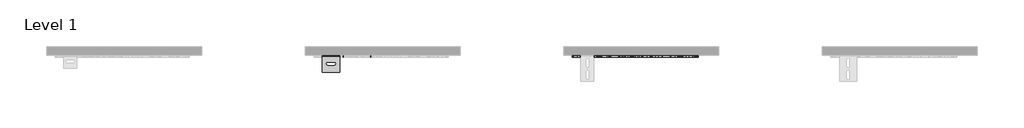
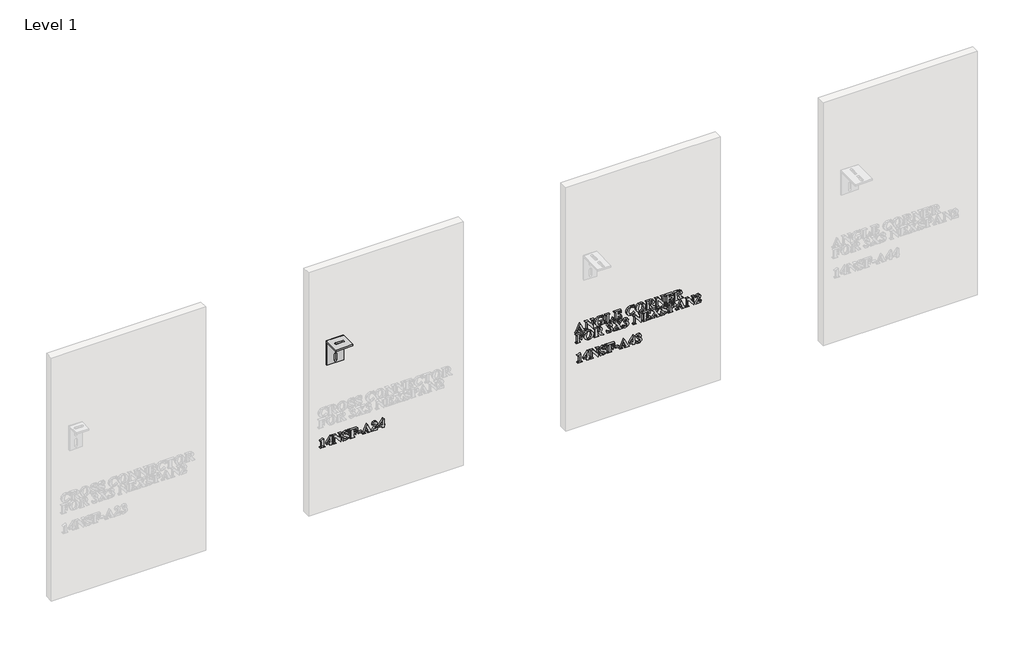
# One storey, part 7 of 21: 4 proxies.
"""IFC4 building model written with IfcOpenShell, lengths in millimetres."""

from ifc_helpers import new_model, si_unit, frame, origin, place, context, project, spatial, polyline, outline, extrude, transform, mapped, element, save
from components import generic_models_1f3758d4

model = new_model("IFC4")

# Units and contexts
model_context = context("Model", 3, world=origin())
ifc_project = project(units=[si_unit("LENGTHUNIT", "METRE", prefix="MILLI")], contexts=[model_context])

# Site, building, storey
site = spatial("IfcSite", under=ifc_project)
building = spatial("IfcBuilding", under=site)
storey = spatial("IfcBuildingStorey", under=building, Name="Level 1", Elevation=0.0)

# Proxies
placement = place(None, origin())
element("IfcBuildingElementProxy", 1, Name="2\"\" Arial", ObjectType="2\"\" Arial", at=placement, inside=storey, context=model_context, shape_type="SweptSolid", body=[
    extrude(outline(polyline([(463.8692305, 6960.4026674), (455.0050049, 6940.6451396), (453.2321598, 6941.3099565), (454.4648412, 6945.8667225), (453.827725, 6947.9442753), (452.3111114, 6949.1769567), (447.9136245, 6949.5093652), (421.3209478, 6949.5093652), (415.2544934, 6948.9899769), (413.2046413, 6947.0024514), (412.4567222, 6940.6451396), (410.6838771, 6940.6451396), (410.6838771, 6969.0106614), (412.4567222, 6967.77798), (413.273893, 6963.3043162), (415.3791466, 6961.4691445), (421.3209478, 6961.0328584), (463.8692305, 6960.4026674)])), frame((0.0, -15490.3579358, 0.0), z_axis=(0.0, 1.0, 0.0), x_axis=(0.0, 0.0, 1.0)), (0.0, 0.0, 1.0), 12.7),
    extrude(outline(polyline([(430.1851733, 6977.874887), (422.2073703, 6977.874887), (422.2073703, 6996.4897607), (410.6838771, 6996.4897607), (410.6838771, 7008.0132539), (422.2073703, 7008.0132539), (422.2073703, 7012.4453667), (430.1851733, 7012.4453667), (430.1851733, 7008.0132539), (463.8692305, 7008.0132539), (463.8692305, 7002.9024738), (430.1851733, 6977.874887)]), holes=[polyline([(430.1851733, 6980.5618553), (451.6116686, 6996.4897607), (430.1851733, 6996.4897607), (430.1851733, 6980.5618553)])]), frame((0.0, -15490.3579358, 0.0), z_axis=(0.0, 1.0, 0.0), x_axis=(0.0, 0.0, 1.0)), (0.0, 0.0, 1.0), 12.7),
    extrude(outline(polyline([(462.9828079, 7035.0768426), (462.9828079, 7016.6558738), (461.2099628, 7016.6558738), (460.6074725, 7020.319292), (457.4565173, 7023.9688599), (419.5481027, 7023.9688599), (414.097989, 7022.4106952), (412.4567222, 7016.8774794), (410.6838771, 7016.8774794), (410.6838771, 7034.6059306), (412.4567222, 7033.5117527), (413.9179344, 7029.3358715), (419.5481027, 7027.5145501), (452.9551528, 7027.5145501), (409.7974546, 7061.3371108), (409.7974546, 7062.9714524), (452.3457373, 7062.9714524), (457.7820006, 7063.6293441), (460.0673087, 7065.4645158), (461.2099628, 7070.0628328), (462.9828079, 7070.0628328), (462.9828079, 7052.3343817), (461.2099628, 7052.3343817), (458.9662057, 7058.1653801), (452.3457373, 7059.4257622), (431.9164674, 7059.4257622), (462.9828079, 7035.0768426)])), frame((0.0, -15490.3579358, 0.0), z_axis=(0.0, 1.0, 0.0), x_axis=(0.0, 0.0, 1.0)), (0.0, 0.0, 1.0), 12.7),
    extrude(outline(polyline([(463.8692305, 7110.8382704), (463.8692305, 7109.0654253), (460.9329558, 7107.9573971), (460.3235403, 7106.3230555), (461.5631468, 7102.5626848), (463.259815, 7098.0128441), (463.8692305, 7092.9297647), (459.5409954, 7080.9976861), (449.0493534, 7076.2677907), (442.4427353, 7077.9021323), (437.0064719, 7082.5835514), (431.0992966, 7093.4283774), (427.0549937, 7101.1845748), (423.7863105, 7104.4463328), (420.2267699, 7105.5197351), (414.7905066, 7102.8535422), (412.4567222, 7095.6859848), (416.771107, 7084.8342337), (429.2987508, 7078.0406358), (429.2987508, 7076.2677907), (409.7974546, 7076.2677907), (409.7974546, 7078.0406358), (412.4705726, 7079.8619572), (413.3431448, 7082.0018366), (412.4844229, 7085.0627645), (410.3583938, 7090.6098307), (409.7974546, 7095.298175), (414.4788737, 7108.3590573), (425.6699585, 7113.4975381), (434.76964, 7110.8798215), (443.218355, 7098.1928986), (447.7058692, 7089.051666), (451.2654098, 7085.1320163), (454.3263377, 7084.2455937), (459.1254848, 7086.6694054), (461.2099628, 7093.2483228), (457.0756326, 7103.2621276), (446.1407794, 7109.0654253), (446.1407794, 7110.8382704), (463.8692305, 7110.8382704)])), frame((0.0, -15490.3579358, 0.0), z_axis=(0.0, 1.0, 0.0), x_axis=(0.0, 0.0, 1.0)), (0.0, 0.0, 1.0), 12.7),
    extrude(outline(polyline([(459.4371177, 7137.4309471), (459.4371177, 7141.8630599), (458.8415526, 7150.4225777), (455.1296581, 7156.8352909), (447.0272019, 7159.591511), (447.0272019, 7161.3643561), (462.9828079, 7161.3643561), (462.9828079, 7117.9296509), (461.2099628, 7117.9296509), (461.2099628, 7119.6055435), (460.5035948, 7122.9573288), (458.8484777, 7124.6124459), (454.1185824, 7125.0210313), (419.5481027, 7125.0210313), (414.963636, 7124.6193711), (413.2184916, 7123.123533), (412.4567222, 7119.6055435), (412.4567222, 7117.9296509), (410.6838771, 7117.9296509), (410.6838771, 7144.5223276), (412.4567222, 7144.5223276), (412.4567222, 7142.8602853), (413.1630902, 7139.5154252), (414.8182073, 7137.8533829), (419.5481027, 7137.4309471), (435.5037087, 7137.4309471), (435.5037087, 7139.2037922), (433.0868222, 7146.1151181), (423.0937929, 7149.8408629), (423.0937929, 7151.613708), (451.4593147, 7151.613708), (451.4593147, 7149.8408629), (444.0770768, 7147.9849157), (440.1989782, 7144.501552), (439.0493989, 7139.2037922), (439.0493989, 7137.4309471), (459.4371177, 7137.4309471)])), frame((0.0, -15490.3579358, 0.0), z_axis=(0.0, 1.0, 0.0), x_axis=(0.0, 0.0, 1.0)), (0.0, 0.0, 1.0), 12.7),
    extrude(outline(polyline([(7187.0706103, -15490.3579358), (7164.9100464, -15490.3579358), (7164.9100464, -15477.6579358), (7187.0706103, -15477.6579358), (7187.0706103, -15490.3579358)])), frame((0.0, 0.0, 424.866638), z_axis=(0.0, 0.0, 1.0), x_axis=(1.0, 0.0, 0.0)), (0.0, 0.0, 1.0), 7.977803),
    extrude(outline(polyline([(425.7530606, 7222.9153224), (419.1048914, 7225.8377468), (414.963636, 7227.222782), (413.273893, 7226.3779105), (412.4567222, 7221.0593752), (410.6838771, 7221.0593752), (410.6838771, 7246.4609215), (412.4567222, 7246.4609215), (413.8140568, 7242.7628774), (421.3070974, 7238.3307647), (463.8692305, 7218.6771145), (422.470527, 7199.8544856), (414.7420304, 7195.3877469), (412.4567222, 7190.7686544), (410.6838771, 7190.7686544), (410.6838771, 7208.5386566), (412.4567222, 7208.5386566), (413.3431448, 7203.4140261), (416.4317734, 7201.641181), (420.4345252, 7202.7215085), (425.7530606, 7205.1314699), (425.7530606, 7222.9153224)]), holes=[polyline([(429.2987508, 7221.3640829), (429.2987508, 7206.7381107), (445.6421667, 7214.1480493), (429.2987508, 7221.3640829)])]), frame((0.0, -15490.3579358, 0.0), z_axis=(0.0, 1.0, 0.0), x_axis=(0.0, 0.0, 1.0)), (0.0, 0.0, 1.0), 12.7),
    extrude(outline(polyline([(410.6838771, 7278.7737938), (425.7530606, 7280.394285), (422.664432, 7278.2959566), (421.6256555, 7276.2599548), (421.3209478, 7270.9067936), (421.3209478, 7259.7434095), (440.8914958, 7276.4607849), (451.1269062, 7279.2585561), (457.0617823, 7277.367983), (462.0479091, 7272.139475), (463.8692305, 7264.7572371), (460.3650913, 7254.7642078), (449.0493534, 7249.7434551), (453.516092, 7253.9124112), (455.0050049, 7259.4941032), (452.3249617, 7265.969143), (445.6006156, 7268.6214854), (434.2294763, 7265.5190065), (410.6838771, 7247.3473441), (410.6838771, 7278.7737938)])), frame((0.0, -15490.3579358, 0.0), z_axis=(0.0, 1.0, 0.0), x_axis=(0.0, 0.0, 1.0)), (0.0, 0.0, 1.0), 12.7),
    extrude(outline(polyline([(430.1851733, 7289.0092042), (422.2073703, 7289.0092042), (422.2073703, 7307.6240779), (410.6838771, 7307.6240779), (410.6838771, 7319.1475712), (422.2073703, 7319.1475712), (422.2073703, 7323.5796839), (430.1851733, 7323.5796839), (430.1851733, 7319.1475712), (463.8692305, 7319.1475712), (463.8692305, 7314.0367911), (430.1851733, 7289.0092042)]), holes=[polyline([(430.1851733, 7291.6961726), (451.6116686, 7307.6240779), (430.1851733, 7307.6240779), (430.1851733, 7291.6961726)])]), frame((0.0, -15490.3579358, 0.0), z_axis=(0.0, 1.0, 0.0), x_axis=(0.0, 0.0, 1.0)), (0.0, 0.0, 1.0), 12.7),
])
element("IfcBuildingElementProxy", 2, Name="2\"\" Arial", ObjectType="2\"\" Arial", at=placement, inside=storey, context=model_context, shape_type="SweptSolid", body=[
    extrude(outline(polyline([(615.3485426, 8486.1620487), (608.7003734, 8489.0844731), (604.559118, 8490.4695083), (602.869375, 8489.6246368), (602.0522042, 8484.3061015), (600.2793591, 8484.3061015), (600.2793591, 8509.7076479), (602.0522042, 8509.7076479), (603.4095388, 8506.0096038), (610.9025794, 8501.577491), (653.4647125, 8481.9238409), (612.066009, 8463.1012119), (604.3375124, 8458.6344732), (602.0522042, 8454.0153807), (600.2793591, 8454.0153807), (600.2793591, 8471.7853829), (602.0522042, 8471.7853829), (602.9386268, 8466.6607525), (606.0272554, 8464.8879074), (610.0300072, 8465.9682349), (615.3485426, 8468.3781962), (615.3485426, 8486.1620487)]), holes=[polyline([(618.8942328, 8484.6108092), (618.8942328, 8469.9848371), (635.2376487, 8477.3947756), (618.8942328, 8484.6108092)])]), frame((0.0, -15490.3579358, 0.0), z_axis=(0.0, 1.0, 0.0), x_axis=(0.0, 0.0, 1.0)), (0.0, 0.0, 1.0), 12.7),
    extrude(outline(polyline([(652.5782899, 8529.6798561), (652.5782899, 8511.2588873), (650.8054448, 8511.2588873), (650.2029545, 8514.9223056), (647.0519993, 8518.5718734), (609.1435847, 8518.5718734), (603.693471, 8517.0137088), (602.0522042, 8511.480493), (600.2793591, 8511.480493), (600.2793591, 8529.2089441), (602.0522042, 8528.1147663), (603.5134164, 8523.938885), (609.1435847, 8522.1175637), (642.5506348, 8522.1175637), (599.3929366, 8555.9401243), (599.3929366, 8557.5744659), (641.9412193, 8557.5744659), (647.3774826, 8558.2323577), (649.6627907, 8560.0675294), (650.8054448, 8564.6658464), (652.5782899, 8564.6658464), (652.5782899, 8546.9373952), (650.8054448, 8546.9373952), (648.5616877, 8552.7683936), (641.9412193, 8554.0287757), (621.5119494, 8554.0287757), (652.5782899, 8529.6798561)])), frame((0.0, -15490.3579358, 0.0), z_axis=(0.0, 1.0, 0.0), x_axis=(0.0, 0.0, 1.0)), (0.0, 0.0, 1.0), 12.7),
    extrude(outline(polyline([(653.4647125, 8619.6240449), (653.4647125, 8617.8511997), (650.6600161, 8616.2237833), (649.9190223, 8614.2916592), (651.2625064, 8609.9841996), (652.896848, 8604.7072153), (653.4647125, 8597.975944), (651.4564114, 8586.9285566), (645.4315081, 8577.9414092), (636.4945682, 8571.9736386), (625.7501572, 8569.9843817), (613.9773577, 8572.6020983), (606.6505212, 8578.287668), (601.3943125, 8586.6809816), (599.3929366, 8598.6546113), (600.4663389, 8609.5271379), (603.6449948, 8619.6240449), (615.3485426, 8619.6240449), (618.3402187, 8619.9703037), (620.002261, 8621.750074), (620.6670779, 8625.8290028), (622.439923, 8625.8290028), (622.439923, 8600.1227486), (620.6670779, 8601.5354846), (620.0576624, 8604.9288209), (618.6864775, 8606.7709178), (615.3485426, 8607.2141291), (603.6449948, 8607.2141291), (602.4607896, 8603.4329829), (602.0522042, 8599.8457416), (604.7114719, 8591.1269447), (613.0355337, 8585.8153345), (626.2210692, 8584.1671426), (638.3193521, 8585.6837562), (647.5090609, 8590.8499377), (650.8054448, 8599.9980954), (646.961972, 8610.5866899), (635.7362614, 8617.8511997), (635.7362614, 8619.6240449), (653.4647125, 8619.6240449)])), frame((0.0, -15490.3579358, 0.0), z_axis=(0.0, 1.0, 0.0), x_axis=(0.0, 0.0, 1.0)), (0.0, 0.0, 1.0), 12.7),
    extrude(outline(polyline([(619.7806553, 8678.1279336), (619.7806553, 8676.3550885), (610.1269597, 8672.5600919), (605.3416629, 8667.809421), (603.8250493, 8660.9396462), (603.8250493, 8656.6321866), (604.1713081, 8652.0200192), (605.7848742, 8650.2194734), (610.8333277, 8649.7624118), (643.7140644, 8649.7624118), (648.298531, 8650.1363713), (650.0436754, 8651.5491072), (650.8054448, 8654.8177904), (650.8054448, 8656.8537922), (652.5782899, 8656.8537922), (652.5782899, 8630.2611155), (650.8054448, 8630.2611155), (650.8054448, 8631.9370082), (650.0990768, 8635.2887935), (648.4439597, 8636.9439106), (643.7140644, 8637.352496), (609.1435847, 8637.352496), (604.559118, 8636.9508358), (602.8139736, 8635.4549977), (602.0522042, 8631.9370082), (602.0522042, 8630.2611155), (600.2793591, 8630.2611155), (600.2793591, 8676.3550885), (619.7806553, 8678.1279336)])), frame((0.0, -15490.3579358, 0.0), z_axis=(0.0, 1.0, 0.0), x_axis=(0.0, 0.0, 1.0)), (0.0, 0.0, 1.0), 12.7),
    extrude(outline(polyline([(649.0325997, 8702.0613426), (649.0325997, 8706.4934554), (648.3400821, 8714.5266598), (644.7320653, 8720.2191546), (636.6226839, 8723.3354839), (636.6226839, 8725.1083291), (652.5782899, 8725.1083291), (652.5782899, 8682.5600464), (650.8054448, 8682.5600464), (650.8054448, 8684.235939), (649.7805187, 8688.086337), (647.827619, 8689.4713722), (643.7140644, 8689.6514268), (609.1435847, 8689.6514268), (604.559118, 8689.2497666), (602.8139736, 8687.7539285), (602.0522042, 8684.235939), (602.0522042, 8682.5600464), (600.2793591, 8682.5600464), (600.2793591, 8726.3687111), (616.8859317, 8727.3105351), (606.4427659, 8721.1956045), (602.9386268, 8709.8729414), (602.9386268, 8706.8535645), (603.5549675, 8703.7372352), (605.1339076, 8702.4145266), (610.4039667, 8702.0613426), (625.0991907, 8702.0613426), (624.0950401, 8707.068245), (620.1753904, 8710.1014722), (612.6892749, 8711.8119907), (612.6892749, 8713.5848358), (640.1683741, 8713.5848358), (640.1683741, 8711.8119907), (630.9024884, 8709.3050769), (627.7584584, 8702.0613426), (649.0325997, 8702.0613426)])), frame((0.0, -15490.3579358, 0.0), z_axis=(0.0, 1.0, 0.0), x_axis=(0.0, 0.0, 1.0)), (0.0, 0.0, 1.0), 12.7),
    extrude(outline(polyline([(653.4647125, 8803.9999366), (653.4647125, 8802.2270915), (650.7708189, 8801.0775122), (649.9190223, 8798.986109), (651.2209554, 8794.5816969), (653.4647125, 8783.1967072), (649.8012943, 8769.394831), (639.5035572, 8759.0693933), (625.4731502, 8755.246696), (612.2460636, 8758.7162093), (602.710096, 8768.570735), (599.3929366, 8783.1828569), (601.4220132, 8794.1107849), (607.9663047, 8803.113514), (612.4676693, 8803.113514), (605.0785062, 8794.740976), (602.9386268, 8785.9944784), (605.854126, 8776.5208373), (614.4551948, 8771.1469006), (627.0797911, 8769.4294569), (639.8636664, 8771.7563161), (647.1420266, 8777.490362), (649.9190223, 8786.1052812), (646.2625292, 8796.1675623), (635.7362614, 8802.2270915), (635.7362614, 8803.9999366), (653.4647125, 8803.9999366)])), frame((0.0, -15490.3579358, 0.0), z_axis=(0.0, 1.0, 0.0), x_axis=(0.0, 0.0, 1.0)), (0.0, 0.0, 1.0), 12.7),
    extrude(outline(polyline([(653.4647125, 8839.11058), (651.8788471, 8828.5687305), (646.1794271, 8819.8239642), (637.4606302, 8813.9392957), (626.8166344, 8811.9777396), (617.1733265, 8813.4839654), (608.9358294, 8818.0026429), (601.7786598, 8827.2200524), (599.3929366, 8839.6091927), (601.8929252, 8851.9671697), (609.392891, 8861.1741915), (626.8581854, 8866.9359381), (637.4969874, 8865.0038139), (646.2002026, 8859.2074414), (651.884041, 8850.3189777), (653.4647125, 8839.11058)]), holes=[polyline([(650.8054448, 8839.5676416), (648.6863409, 8846.1811849), (641.4356814, 8850.9041551), (625.9440622, 8852.7531772), (611.8444034, 8850.938781), (603.9774032, 8845.869552), (602.0522042, 8839.4983899), (606.5120177, 8830.6757154), (626.2487699, 8826.1605005), (643.4924587, 8829.0829248), (648.9771983, 8833.5046499), (650.8054448, 8839.5676416)])]), frame((0.0, -15490.3579358, 0.0), z_axis=(0.0, 1.0, 0.0), x_axis=(0.0, 0.0, 1.0)), (0.0, 0.0, 1.0), 12.7),
    extrude(outline(polyline([(624.2127681, 8890.8693471), (624.2127681, 8894.3042345), (600.2793591, 8911.0908617), (600.2793591, 8927.2126719), (602.0522042, 8927.2126719), (603.3956884, 8923.9439887), (607.7723998, 8920.7999587), (625.4592998, 8908.3900429), (628.9911397, 8915.3429199), (638.395529, 8919.2348689), (646.5326111, 8916.4717236), (651.2902072, 8909.3387921), (652.5782899, 8895.5369159), (652.5782899, 8871.3680509), (650.8054448, 8871.3680509), (650.2029545, 8876.1533476), (648.5963136, 8877.9469683), (643.7140644, 8878.4594313), (609.1435847, 8878.4594313), (604.2751858, 8877.9469683), (602.6685449, 8876.1741232), (602.0522042, 8871.3680509), (600.2793591, 8871.3680509), (600.2793591, 8897.9607275), (602.0522042, 8897.9607275), (602.6546946, 8893.1754308), (604.2613354, 8891.3818101), (609.1435847, 8890.8693471), (624.2127681, 8890.8693471)]), holes=[polyline([(649.9190223, 8890.8693471), (649.9190223, 8894.9967521), (647.0450741, 8904.0271819), (638.160073, 8906.8249531), (631.4288018, 8905.3014143), (627.862336, 8901.1116827), (626.8720358, 8893.0715531), (626.8720358, 8890.8693471), (649.9190223, 8890.8693471)])]), frame((0.0, -15490.3579358, 0.0), z_axis=(0.0, 1.0, 0.0), x_axis=(0.0, 0.0, 1.0)), (0.0, 0.0, 1.0), 12.7),
    extrude(outline(polyline([(652.5782899, 8946.2984576), (652.5782899, 8927.8774888), (650.8054448, 8927.8774888), (650.2029545, 8931.540907), (647.0519993, 8935.1904749), (609.1435847, 8935.1904749), (603.693471, 8933.6323103), (602.0522042, 8928.0990945), (600.2793591, 8928.0990945), (600.2793591, 8945.8275456), (602.0522042, 8944.7333677), (603.5134164, 8940.5574865), (609.1435847, 8938.7361651), (642.5506348, 8938.7361651), (599.3929366, 8972.5587258), (599.3929366, 8974.1930674), (641.9412193, 8974.1930674), (647.3774826, 8974.8509591), (649.6627907, 8976.6861308), (650.8054448, 8981.2844478), (652.5782899, 8981.2844478), (652.5782899, 8963.5559967), (650.8054448, 8963.5559967), (648.5616877, 8969.3869951), (641.9412193, 8970.6473772), (621.5119494, 8970.6473772), (652.5782899, 8946.2984576)])), frame((0.0, -15490.3579358, 0.0), z_axis=(0.0, 1.0, 0.0), x_axis=(0.0, 0.0, 1.0)), (0.0, 0.0, 1.0), 12.7),
    extrude(outline(polyline([(649.0325997, 9005.2178569), (649.0325997, 9009.6499696), (648.3400821, 9017.6831741), (644.7320653, 9023.3756689), (636.6226839, 9026.4919982), (636.6226839, 9028.2648433), (652.5782899, 9028.2648433), (652.5782899, 8985.7165606), (650.8054448, 8985.7165606), (650.8054448, 8987.3924533), (649.7805187, 8991.2428513), (647.827619, 8992.6278865), (643.7140644, 8992.8079411), (609.1435847, 8992.8079411), (604.559118, 8992.4062809), (602.8139736, 8990.9104428), (602.0522042, 8987.3924533), (602.0522042, 8985.7165606), (600.2793591, 8985.7165606), (600.2793591, 9029.5252254), (616.8859317, 9030.4670494), (606.4427659, 9024.3521188), (602.9386268, 9013.0294556), (602.9386268, 9010.0100788), (603.5549675, 9006.8937495), (605.1339076, 9005.5710409), (610.4039667, 9005.2178569), (625.0991907, 9005.2178569), (624.0950401, 9010.2247593), (620.1753904, 9013.2579865), (612.6892749, 9014.968505), (612.6892749, 9016.7413501), (640.1683741, 9016.7413501), (640.1683741, 9014.968505), (630.9024884, 9012.4615912), (627.7584584, 9005.2178569), (649.0325997, 9005.2178569)])), frame((0.0, -15490.3579358, 0.0), z_axis=(0.0, 1.0, 0.0), x_axis=(0.0, 0.0, 1.0)), (0.0, 0.0, 1.0), 12.7),
    extrude(outline(polyline([(624.2127681, 9056.6303651), (624.2127681, 9060.0652525), (600.2793591, 9076.8518797), (600.2793591, 9092.9736899), (602.0522042, 9092.9736899), (603.3956884, 9089.7050068), (607.7723998, 9086.5609768), (625.4592998, 9074.151061), (628.9911397, 9081.1039379), (638.395529, 9084.9958869), (646.5326111, 9082.2327416), (651.2902072, 9075.0998101), (652.5782899, 9061.2979339), (652.5782899, 9037.1290689), (650.8054448, 9037.1290689), (650.2029545, 9041.9143657), (648.5963136, 9043.7079863), (643.7140644, 9044.2204493), (609.1435847, 9044.2204493), (604.2751858, 9043.7079863), (602.6685449, 9041.9351412), (602.0522042, 9037.1290689), (600.2793591, 9037.1290689), (600.2793591, 9063.7217456), (602.0522042, 9063.7217456), (602.6546946, 9058.9364488), (604.2613354, 9057.1428282), (609.1435847, 9056.6303651), (624.2127681, 9056.6303651)]), holes=[polyline([(649.9190223, 9056.6303651), (649.9190223, 9060.7577702), (647.0450741, 9069.7882), (638.160073, 9072.5859711), (631.4288018, 9071.0624324), (627.862336, 9066.8727008), (626.8720358, 9058.8325712), (626.8720358, 9056.6303651), (649.9190223, 9056.6303651)])]), frame((0.0, -15490.3579358, 0.0), z_axis=(0.0, 1.0, 0.0), x_axis=(0.0, 0.0, 1.0)), (0.0, 0.0, 1.0), 12.7),
    extrude(outline(polyline([(584.9362614, 8475.1371682), (584.9362614, 8479.569281), (584.3406962, 8488.1287988), (580.6288018, 8494.5415119), (572.5263456, 8497.2977321), (572.5263456, 8499.0705772), (588.4819516, 8499.0705772), (588.4819516, 8455.6358719), (586.7091065, 8455.6358719), (586.7091065, 8457.3117646), (586.0027385, 8460.6635499), (584.3476214, 8462.318667), (579.617726, 8462.7272524), (545.0472463, 8462.7272524), (540.4627797, 8462.3255922), (538.7176353, 8460.8297541), (537.9558659, 8457.3117646), (537.9558659, 8455.6358719), (536.1830208, 8455.6358719), (536.1830208, 8482.2285486), (537.9558659, 8482.2285486), (537.9558659, 8480.5665063), (538.6622338, 8477.2216462), (540.317351, 8475.5596039), (545.0472463, 8475.1371682), (561.0028523, 8475.1371682), (561.0028523, 8476.9100133), (558.5859658, 8483.8213392), (548.5929366, 8487.547084), (548.5929366, 8489.3199291), (576.9584584, 8489.3199291), (576.9584584, 8487.547084), (569.5762205, 8485.6911367), (565.6981218, 8482.2077731), (564.5485426, 8476.9100133), (564.5485426, 8475.1371682), (584.9362614, 8475.1371682)])), frame((0.0, -15490.3579358, 0.0), z_axis=(0.0, 1.0, 0.0), x_axis=(0.0, 0.0, 1.0)), (0.0, 0.0, 1.0), 12.7),
    extrude(outline(polyline([(589.3683741, 8531.521953), (587.7825088, 8520.9801035), (582.0830888, 8512.2353372), (573.3642919, 8506.3506687), (562.720296, 8504.3891125), (553.0769882, 8505.8953384), (544.839491, 8510.4140158), (537.6823214, 8519.6314254), (535.2965982, 8532.0205657), (537.7965868, 8544.3785426), (545.2965527, 8553.5855644), (562.7618471, 8559.347311), (573.4006491, 8557.4151869), (582.1038643, 8551.6188144), (587.7877027, 8542.7303507), (589.3683741, 8531.521953)]), holes=[polyline([(586.7091065, 8531.9790146), (584.5900026, 8538.5925579), (577.339343, 8543.3155281), (561.8477238, 8545.1645501), (547.7480651, 8543.350154), (539.8810649, 8538.280925), (537.9558659, 8531.9097628), (542.4156794, 8523.0870883), (562.1524316, 8518.5718734), (579.3961204, 8521.4942978), (584.88086, 8525.9160228), (586.7091065, 8531.9790146)])]), frame((0.0, -15490.3579358, 0.0), z_axis=(0.0, 1.0, 0.0), x_axis=(0.0, 0.0, 1.0)), (0.0, 0.0, 1.0), 12.7),
    extrude(outline(polyline([(560.1164298, 8583.28072), (560.1164298, 8586.7156075), (536.1830208, 8603.5022346), (536.1830208, 8619.6240449), (537.9558659, 8619.6240449), (539.2993501, 8616.3553617), (543.6760614, 8613.2113317), (561.3629615, 8600.8014159), (564.8948014, 8607.7542928), (574.2991907, 8611.6462418), (582.4362727, 8608.8830965), (587.1938688, 8601.750165), (588.4819516, 8587.9482888), (588.4819516, 8563.7794238), (586.7091065, 8563.7794238), (586.1066161, 8568.5647206), (584.4999753, 8570.3583412), (579.617726, 8570.8708043), (545.0472463, 8570.8708043), (540.1788474, 8570.3583412), (538.5722066, 8568.5854961), (537.9558659, 8563.7794238), (536.1830208, 8563.7794238), (536.1830208, 8590.3721005), (537.9558659, 8590.3721005), (538.5583562, 8585.5868037), (540.1649971, 8583.7931831), (545.0472463, 8583.28072), (560.1164298, 8583.28072)]), holes=[polyline([(585.8226839, 8583.28072), (585.8226839, 8587.4081251), (582.9487358, 8596.4385549), (574.0637347, 8599.2363261), (567.3324634, 8597.7127873), (563.7659977, 8593.5230557), (562.7756975, 8585.4829261), (562.7756975, 8583.28072), (585.8226839, 8583.28072)])]), frame((0.0, -15490.3579358, 0.0), z_axis=(0.0, 1.0, 0.0), x_axis=(0.0, 0.0, 1.0)), (0.0, 0.0, 1.0), 12.7),
    extrude(outline(polyline([(564.5485426, 8648.8759892), (558.3782106, 8660.7665168), (548.6206373, 8664.8315952), (542.8796662, 8662.7263417), (540.6151335, 8657.6848134), (543.7314628, 8650.4272287), (547.1524999, 8645.9258641), (547.706514, 8643.4605014), (546.2176011, 8640.4341994), (542.6234346, 8639.1253411), (537.9004645, 8641.3829485), (535.2965982, 8651.3275016), (536.8114805, 8660.5033601), (541.3561274, 8667.6155161), (548.0648919, 8672.1757446), (556.0721269, 8673.6958208), (564.6177943, 8670.8564985), (570.3518402, 8662.6155388), (574.5554222, 8669.0005513), (579.5207736, 8671.0365531), (586.4182491, 8667.4008356), (589.3683741, 8658.1695757), (586.9237869, 8648.2180975), (579.105263, 8641.7846088), (584.0498388, 8651.1751477), (581.6883537, 8657.1238741), (576.0304847, 8659.5130599), (571.3282901, 8658.2319023), (567.8795523, 8655.1917499), (564.5485426, 8648.8759892)])), frame((0.0, -15490.3579358, 0.0), z_axis=(0.0, 1.0, 0.0), x_axis=(0.0, 0.0, 1.0)), (0.0, 0.0, 1.0), 12.7),
    extrude(outline(polyline([(566.5845444, 8711.2302759), (578.4681468, 8720.7177673), (584.2021927, 8725.7315949), (586.1481672, 8728.6955703), (586.7091065, 8732.3520634), (588.4819516, 8732.3520634), (588.4819516, 8712.9200189), (586.7091065, 8712.9200189), (586.2243441, 8716.382607), (584.88086, 8718.1000507), (583.0110624, 8718.6956159), (575.9473826, 8714.457408), (569.5069687, 8709.3050769), (579.146814, 8702.9754659), (584.3406962, 8700.0530415), (586.0304392, 8700.939464), (586.7091065, 8705.3577265), (588.4819516, 8705.3577265), (588.4819516, 8679.8176766), (586.7091065, 8679.8176766), (585.9334867, 8682.5877471), (584.2021927, 8684.6237489), (579.0775623, 8688.363344), (559.4377625, 8701.2718725), (546.8616425, 8691.2026663), (539.7425613, 8684.000483), (537.9558659, 8678.6126959), (536.1830208, 8678.6126959), (536.1830208, 8698.9588636), (537.9558659, 8698.9588636), (538.1774715, 8695.6486294), (539.4655543, 8692.9131848), (541.4046036, 8691.9921364), (547.000146, 8695.5655273), (556.5291885, 8703.1832211), (545.781315, 8710.2469009), (540.4627797, 8713.2108763), (538.8422884, 8712.3244538), (537.9558659, 8708.404804), (536.1830208, 8708.404804), (536.1830208, 8733.6955476), (537.9558659, 8733.6955476), (539.2993501, 8730.0944559), (545.6428115, 8724.9836759), (566.5845444, 8711.2302759)])), frame((0.0, -15490.3579358, 0.0), z_axis=(0.0, 1.0, 0.0), x_axis=(0.0, 0.0, 1.0)), (0.0, 0.0, 1.0), 12.7),
    extrude(outline(polyline([(564.5485426, 8744.6096253), (558.3782106, 8756.5001529), (548.6206373, 8760.5652313), (542.8796662, 8758.4599777), (540.6151335, 8753.4184495), (543.7314628, 8746.1608648), (547.1524999, 8741.6595002), (547.706514, 8739.1941375), (546.2176011, 8736.1678355), (542.6234346, 8734.8589772), (537.9004645, 8737.1165846), (535.2965982, 8747.0611377), (536.8114805, 8756.2369962), (541.3561274, 8763.3491522), (548.0648919, 8767.9093807), (556.0721269, 8769.4294569), (564.6177943, 8766.5901346), (570.3518402, 8758.3491749), (574.5554222, 8764.7341874), (579.5207736, 8766.7701892), (586.4182491, 8763.1344717), (589.3683741, 8753.9032118), (586.9237869, 8743.9517336), (579.105263, 8737.5182448), (584.0498388, 8746.9087838), (581.6883537, 8752.8575102), (576.0304847, 8755.246696), (571.3282901, 8753.9655384), (567.8795523, 8750.925386), (564.5485426, 8744.6096253)])), frame((0.0, -15490.3579358, 0.0), z_axis=(0.0, 1.0, 0.0), x_axis=(0.0, 0.0, 1.0)), (0.0, 0.0, 1.0), 12.7),
    extrude(outline(polyline([(588.4819516, 8813.3350741), (588.4819516, 8794.9141054), (586.7091065, 8794.9141054), (586.1066161, 8798.5775236), (582.955661, 8802.2270915), (545.0472463, 8802.2270915), (539.5971326, 8800.6689268), (537.9558659, 8795.135711), (536.1830208, 8795.135711), (536.1830208, 8812.8641621), (537.9558659, 8811.7699843), (539.4170781, 8807.594103), (545.0472463, 8805.7727817), (578.4542964, 8805.7727817), (535.2965982, 8839.5953424), (535.2965982, 8841.2296839), (577.8448809, 8841.2296839), (583.2811442, 8841.8875757), (585.5664524, 8843.7227474), (586.7091065, 8848.3210644), (588.4819516, 8848.3210644), (588.4819516, 8830.5926133), (586.7091065, 8830.5926133), (584.4653494, 8836.4236116), (577.8448809, 8837.6839937), (557.4156111, 8837.6839937), (588.4819516, 8813.3350741)])), frame((0.0, -15490.3579358, 0.0), z_axis=(0.0, 1.0, 0.0), x_axis=(0.0, 0.0, 1.0)), (0.0, 0.0, 1.0), 12.7),
    extrude(outline(polyline([(584.9362614, 8872.2544734), (584.9362614, 8876.6865862), (584.2437437, 8884.7197906), (580.6357269, 8890.4122855), (572.5263456, 8893.5286148), (572.5263456, 8895.3014599), (588.4819516, 8895.3014599), (588.4819516, 8852.7531772), (586.7091065, 8852.7531772), (586.7091065, 8854.4290698), (585.6841804, 8858.2794678), (583.7312807, 8859.664503), (579.617726, 8859.8445576), (545.0472463, 8859.8445576), (540.4627797, 8859.4428974), (538.7176353, 8857.9470593), (537.9558659, 8854.4290698), (537.9558659, 8852.7531772), (536.1830208, 8852.7531772), (536.1830208, 8896.561842), (552.7895933, 8897.5036659), (542.3464276, 8891.3887353), (538.8422884, 8880.0660722), (538.8422884, 8877.0466954), (539.4586291, 8873.9303661), (541.0375693, 8872.6076574), (546.3076284, 8872.2544734), (561.0028523, 8872.2544734), (559.9987018, 8877.2613758), (556.079052, 8880.294603), (548.5929366, 8882.0051215), (548.5929366, 8883.7779666), (576.0720358, 8883.7779666), (576.0720358, 8882.0051215), (566.80615, 8879.4982077), (563.66212, 8872.2544734), (584.9362614, 8872.2544734)])), frame((0.0, -15490.3579358, 0.0), z_axis=(0.0, 1.0, 0.0), x_axis=(0.0, 0.0, 1.0)), (0.0, 0.0, 1.0), 12.7),
    extrude(outline(polyline([(566.5845444, 8935.4951827), (578.4681468, 8944.9826741), (584.2021927, 8949.9965017), (586.1481672, 8952.9604771), (586.7091065, 8956.6169701), (588.4819516, 8956.6169701), (588.4819516, 8937.1849257), (586.7091065, 8937.1849257), (586.2243441, 8940.6475138), (584.88086, 8942.3649575), (583.0110624, 8942.9605226), (575.9473826, 8938.7223148), (569.5069687, 8933.5699837), (579.146814, 8927.2403726), (584.3406962, 8924.3179482), (586.0304392, 8925.2043708), (586.7091065, 8929.6226332), (588.4819516, 8929.6226332), (588.4819516, 8904.0825833), (586.7091065, 8904.0825833), (585.9334867, 8906.8526538), (584.2021927, 8908.8886556), (579.0775623, 8912.6282508), (559.4377625, 8925.5367793), (546.8616425, 8915.467573), (539.7425613, 8908.2653898), (537.9558659, 8902.8776027), (536.1830208, 8902.8776027), (536.1830208, 8923.2237704), (537.9558659, 8923.2237704), (538.1774715, 8919.9135362), (539.4655543, 8917.1780916), (541.4046036, 8916.2570431), (547.000146, 8919.8304341), (556.5291885, 8927.4481279), (545.781315, 8934.5118076), (540.4627797, 8937.4757831), (538.8422884, 8936.5893605), (537.9558659, 8932.6697108), (536.1830208, 8932.6697108), (536.1830208, 8957.9604543), (537.9558659, 8957.9604543), (539.2993501, 8954.3593627), (545.6428115, 8949.2485826), (566.5845444, 8935.4951827)])), frame((0.0, -15490.3579358, 0.0), z_axis=(0.0, 1.0, 0.0), x_axis=(0.0, 0.0, 1.0)), (0.0, 0.0, 1.0), 12.7),
    extrude(outline(polyline([(589.3683741, 8997.2400539), (589.3683741, 8995.4672087), (586.4320994, 8994.3591806), (585.8226839, 8992.724839), (587.0622905, 8988.9644683), (588.7589586, 8984.4146275), (589.3683741, 8979.3315481), (585.040139, 8967.3994695), (574.548497, 8962.6695742), (567.9418789, 8964.3039157), (562.5056156, 8968.9853349), (556.5984403, 8979.8301608), (552.5541373, 8987.5863582), (549.2854542, 8990.8481162), (545.7259136, 8991.9215185), (540.2896503, 8989.2553257), (537.9558659, 8982.0877683), (542.2702507, 8971.2360171), (554.7978944, 8964.4424193), (554.7978944, 8962.6695742), (535.2965982, 8962.6695742), (535.2965982, 8964.4424193), (537.9697162, 8966.2637406), (538.8422884, 8968.4036201), (537.9835666, 8971.464548), (535.8575375, 8977.0116141), (535.2965982, 8981.6999584), (539.9780173, 8994.7608408), (551.1691021, 8999.8993215), (560.2687837, 8997.2816049), (568.7174987, 8984.5946821), (573.2050128, 8975.4534495), (576.7645534, 8971.5337997), (579.8254813, 8970.6473772), (584.6246284, 8973.0711888), (586.7091065, 8979.6501063), (582.5747763, 8989.6639111), (571.639923, 8995.4672087), (571.639923, 8997.2400539), (589.3683741, 8997.2400539)])), frame((0.0, -15490.3579358, 0.0), z_axis=(0.0, 1.0, 0.0), x_axis=(0.0, 0.0, 1.0)), (0.0, 0.0, 1.0), 12.7),
    extrude(outline(polyline([(560.1164298, 9022.946308), (561.030553, 9036.2010953), (565.9266526, 9045.3354027), (574.5623474, 9048.6525621), (584.5069004, 9043.6041087), (588.4819516, 9026.9490598), (588.4819516, 9003.4450118), (586.7091065, 9003.4450118), (586.1066161, 9008.2303085), (584.4999753, 9010.0239292), (579.617726, 9010.5363922), (545.0472463, 9010.5363922), (540.1788474, 9010.0239292), (538.5722066, 9008.2510841), (537.9558659, 9003.4450118), (536.1830208, 9003.4450118), (536.1830208, 9030.0376884), (537.9558659, 9030.0376884), (538.5583562, 9025.266242), (540.1649971, 9023.458771), (545.0472463, 9022.946308), (560.1164298, 9022.946308)]), holes=[polyline([(585.8226839, 9022.946308), (585.8226839, 9024.7330035), (583.0664638, 9033.3548479), (574.3822928, 9036.2426463), (565.5457679, 9033.3548479), (562.6925953, 9025.1346637), (562.7756975, 9022.946308), (585.8226839, 9022.946308)])]), frame((0.0, -15490.3579358, 0.0), z_axis=(0.0, 1.0, 0.0), x_axis=(0.0, 0.0, 1.0)), (0.0, 0.0, 1.0), 12.7),
    extrude(outline(polyline([(551.2522042, 9082.7244291), (544.604035, 9085.6468535), (540.4627797, 9087.0318887), (538.7730367, 9086.1870172), (537.9558659, 9080.8684819), (536.1830208, 9080.8684819), (536.1830208, 9106.2700283), (537.9558659, 9106.2700283), (539.3132004, 9102.5719842), (546.8062411, 9098.1398714), (589.3683741, 9078.4862213), (547.9696707, 9059.6635923), (540.241174, 9055.1968537), (537.9558659, 9050.5777611), (536.1830208, 9050.5777611), (536.1830208, 9068.3477633), (537.9558659, 9068.3477633), (538.8422884, 9063.2231329), (541.930917, 9061.4502878), (545.9336689, 9062.5306153), (551.2522042, 9064.9405766), (551.2522042, 9082.7244291)]), holes=[polyline([(554.7978944, 9081.1731897), (554.7978944, 9066.5472175), (571.1413103, 9073.957156), (554.7978944, 9081.1731897)])]), frame((0.0, -15490.3579358, 0.0), z_axis=(0.0, 1.0, 0.0), x_axis=(0.0, 0.0, 1.0)), (0.0, 0.0, 1.0), 12.7),
    extrude(outline(polyline([(588.4819516, 9126.2422365), (588.4819516, 9107.8212678), (586.7091065, 9107.8212678), (586.1066161, 9111.484686), (582.955661, 9115.1342539), (545.0472463, 9115.1342539), (539.5971326, 9113.5760892), (537.9558659, 9108.0428734), (536.1830208, 9108.0428734), (536.1830208, 9125.7713245), (537.9558659, 9124.6771467), (539.4170781, 9120.5012654), (545.0472463, 9118.6799441), (578.4542964, 9118.6799441), (535.2965982, 9152.5025047), (535.2965982, 9154.1368463), (577.8448809, 9154.1368463), (583.2811442, 9154.7947381), (585.5664524, 9156.6299098), (586.7091065, 9161.2282268), (588.4819516, 9161.2282268), (588.4819516, 9143.4997757), (586.7091065, 9143.4997757), (584.4653494, 9149.330774), (577.8448809, 9150.5911561), (557.4156111, 9150.5911561), (588.4819516, 9126.2422365)])), frame((0.0, -15490.3579358, 0.0), z_axis=(0.0, 1.0, 0.0), x_axis=(0.0, 0.0, 1.0)), (0.0, 0.0, 1.0), 12.7),
    extrude(outline(polyline([(536.1830208, 9195.3139441), (551.2522042, 9196.9344354), (548.1635756, 9194.836107), (547.1247992, 9192.8001052), (546.8200914, 9187.446944), (546.8200914, 9176.2835599), (566.3906394, 9193.0009353), (576.6260499, 9195.7987065), (582.5609259, 9193.9081334), (587.5470528, 9188.6796253), (589.3683741, 9181.2973875), (585.864235, 9171.3043582), (574.548497, 9166.2836054), (579.0152357, 9170.4525615), (580.5041486, 9176.0342535), (577.8241054, 9182.5092933), (571.0997593, 9185.1616358), (559.7286199, 9182.0591569), (536.1830208, 9163.8874945), (536.1830208, 9195.3139441)])), frame((0.0, -15490.3579358, 0.0), z_axis=(0.0, 1.0, 0.0), x_axis=(0.0, 0.0, 1.0)), (0.0, 0.0, 1.0), 12.7),
])
element("IfcBuildingElementProxy", 3, Name="2\"\" Arial", ObjectType="2\"\" Arial", at=placement, inside=storey, context=model_context, shape_type="SweptSolid", body=[
    extrude(outline(polyline([(463.8692305, 8484.4026674), (455.0050049, 8464.6451396), (453.2321598, 8465.3099565), (454.4648412, 8469.8667225), (453.827725, 8471.9442753), (452.3111114, 8473.1769567), (447.9136245, 8473.5093652), (421.3209478, 8473.5093652), (415.2544934, 8472.9899769), (413.2046413, 8471.0024514), (412.4567222, 8464.6451396), (410.6838771, 8464.6451396), (410.6838771, 8493.0106614), (412.4567222, 8491.77798), (413.273893, 8487.3043162), (415.3791466, 8485.4691445), (421.3209478, 8485.0328584), (463.8692305, 8484.4026674)])), frame((0.0, -15490.3579358, 0.0), z_axis=(0.0, 1.0, 0.0), x_axis=(0.0, 0.0, 1.0)), (0.0, 0.0, 1.0), 12.7),
    extrude(outline(polyline([(430.1851733, 8501.874887), (422.2073703, 8501.874887), (422.2073703, 8520.4897607), (410.6838771, 8520.4897607), (410.6838771, 8532.0132539), (422.2073703, 8532.0132539), (422.2073703, 8536.4453667), (430.1851733, 8536.4453667), (430.1851733, 8532.0132539), (463.8692305, 8532.0132539), (463.8692305, 8526.9024738), (430.1851733, 8501.874887)]), holes=[polyline([(430.1851733, 8504.5618553), (451.6116686, 8520.4897607), (430.1851733, 8520.4897607), (430.1851733, 8504.5618553)])]), frame((0.0, -15490.3579358, 0.0), z_axis=(0.0, 1.0, 0.0), x_axis=(0.0, 0.0, 1.0)), (0.0, 0.0, 1.0), 12.7),
    extrude(outline(polyline([(462.9828079, 8559.0768426), (462.9828079, 8540.6558738), (461.2099628, 8540.6558738), (460.6074725, 8544.319292), (457.4565173, 8547.9688599), (419.5481027, 8547.9688599), (414.097989, 8546.4106952), (412.4567222, 8540.8774794), (410.6838771, 8540.8774794), (410.6838771, 8558.6059306), (412.4567222, 8557.5117527), (413.9179344, 8553.3358715), (419.5481027, 8551.5145501), (452.9551528, 8551.5145501), (409.7974546, 8585.3371108), (409.7974546, 8586.9714524), (452.3457373, 8586.9714524), (457.7820006, 8587.6293441), (460.0673087, 8589.4645158), (461.2099628, 8594.0628328), (462.9828079, 8594.0628328), (462.9828079, 8576.3343817), (461.2099628, 8576.3343817), (458.9662057, 8582.1653801), (452.3457373, 8583.4257622), (431.9164674, 8583.4257622), (462.9828079, 8559.0768426)])), frame((0.0, -15490.3579358, 0.0), z_axis=(0.0, 1.0, 0.0), x_axis=(0.0, 0.0, 1.0)), (0.0, 0.0, 1.0), 12.7),
    extrude(outline(polyline([(463.8692305, 8634.8382704), (463.8692305, 8633.0654253), (460.9329558, 8631.9573971), (460.3235403, 8630.3230555), (461.5631468, 8626.5626848), (463.259815, 8622.0128441), (463.8692305, 8616.9297647), (459.5409954, 8604.9976861), (449.0493534, 8600.2677907), (442.4427353, 8601.9021323), (437.0064719, 8606.5835514), (431.0992966, 8617.4283774), (427.0549937, 8625.1845748), (423.7863105, 8628.4463328), (420.2267699, 8629.5197351), (414.7905066, 8626.8535422), (412.4567222, 8619.6859848), (416.771107, 8608.8342337), (429.2987508, 8602.0406358), (429.2987508, 8600.2677907), (409.7974546, 8600.2677907), (409.7974546, 8602.0406358), (412.4705726, 8603.8619572), (413.3431448, 8606.0018366), (412.4844229, 8609.0627645), (410.3583938, 8614.6098307), (409.7974546, 8619.298175), (414.4788737, 8632.3590573), (425.6699585, 8637.4975381), (434.76964, 8634.8798215), (443.218355, 8622.1928986), (447.7058692, 8613.051666), (451.2654098, 8609.1320163), (454.3263377, 8608.2455937), (459.1254848, 8610.6694054), (461.2099628, 8617.2483228), (457.0756326, 8627.2621276), (446.1407794, 8633.0654253), (446.1407794, 8634.8382704), (463.8692305, 8634.8382704)])), frame((0.0, -15490.3579358, 0.0), z_axis=(0.0, 1.0, 0.0), x_axis=(0.0, 0.0, 1.0)), (0.0, 0.0, 1.0), 12.7),
    extrude(outline(polyline([(459.4371177, 8661.4309471), (459.4371177, 8665.8630599), (458.8415526, 8674.4225777), (455.1296581, 8680.8352909), (447.0272019, 8683.591511), (447.0272019, 8685.3643561), (462.9828079, 8685.3643561), (462.9828079, 8641.9296509), (461.2099628, 8641.9296509), (461.2099628, 8643.6055435), (460.5035948, 8646.9573288), (458.8484777, 8648.6124459), (454.1185824, 8649.0210313), (419.5481027, 8649.0210313), (414.963636, 8648.6193711), (413.2184916, 8647.123533), (412.4567222, 8643.6055435), (412.4567222, 8641.9296509), (410.6838771, 8641.9296509), (410.6838771, 8668.5223276), (412.4567222, 8668.5223276), (412.4567222, 8666.8602853), (413.1630902, 8663.5154252), (414.8182073, 8661.8533829), (419.5481027, 8661.4309471), (435.5037087, 8661.4309471), (435.5037087, 8663.2037922), (433.0868222, 8670.1151181), (423.0937929, 8673.8408629), (423.0937929, 8675.613708), (451.4593147, 8675.613708), (451.4593147, 8673.8408629), (444.0770768, 8671.9849157), (440.1989782, 8668.501552), (439.0493989, 8663.2037922), (439.0493989, 8661.4309471), (459.4371177, 8661.4309471)])), frame((0.0, -15490.3579358, 0.0), z_axis=(0.0, 1.0, 0.0), x_axis=(0.0, 0.0, 1.0)), (0.0, 0.0, 1.0), 12.7),
    extrude(outline(polyline([(8711.0706103, -15490.3579358), (8688.9100464, -15490.3579358), (8688.9100464, -15477.6579358), (8711.0706103, -15477.6579358), (8711.0706103, -15490.3579358)])), frame((0.0, 0.0, 424.866638), z_axis=(0.0, 0.0, 1.0), x_axis=(1.0, 0.0, 0.0)), (0.0, 0.0, 1.0), 7.977803),
    extrude(outline(polyline([(425.7530606, 8746.9153224), (419.1048914, 8749.8377468), (414.963636, 8751.222782), (413.273893, 8750.3779105), (412.4567222, 8745.0593752), (410.6838771, 8745.0593752), (410.6838771, 8770.4609215), (412.4567222, 8770.4609215), (413.8140568, 8766.7628774), (421.3070974, 8762.3307647), (463.8692305, 8742.6771145), (422.470527, 8723.8544856), (414.7420304, 8719.3877469), (412.4567222, 8714.7686544), (410.6838771, 8714.7686544), (410.6838771, 8732.5386566), (412.4567222, 8732.5386566), (413.3431448, 8727.4140261), (416.4317734, 8725.641181), (420.4345252, 8726.7215085), (425.7530606, 8729.1314699), (425.7530606, 8746.9153224)]), holes=[polyline([(429.2987508, 8745.3640829), (429.2987508, 8730.7381107), (445.6421667, 8738.1480493), (429.2987508, 8745.3640829)])]), frame((0.0, -15490.3579358, 0.0), z_axis=(0.0, 1.0, 0.0), x_axis=(0.0, 0.0, 1.0)), (0.0, 0.0, 1.0), 12.7),
    extrude(outline(polyline([(430.1851733, 8773.1201892), (422.2073703, 8773.1201892), (422.2073703, 8791.7350629), (410.6838771, 8791.7350629), (410.6838771, 8803.2585561), (422.2073703, 8803.2585561), (422.2073703, 8807.6906689), (430.1851733, 8807.6906689), (430.1851733, 8803.2585561), (463.8692305, 8803.2585561), (463.8692305, 8798.1477761), (430.1851733, 8773.1201892)]), holes=[polyline([(430.1851733, 8775.8071576), (451.6116686, 8791.7350629), (430.1851733, 8791.7350629), (430.1851733, 8775.8071576)])]), frame((0.0, -15490.3579358, 0.0), z_axis=(0.0, 1.0, 0.0), x_axis=(0.0, 0.0, 1.0)), (0.0, 0.0, 1.0), 12.7),
    extrude(outline(polyline([(439.0493989, 8820.9870073), (432.8790669, 8832.8775348), (423.1214936, 8836.9426133), (417.3805225, 8834.8373597), (415.1159899, 8829.7958314), (418.2323192, 8822.5382467), (421.6533562, 8818.0368822), (422.2073703, 8815.5715194), (420.7184575, 8812.5452174), (417.124291, 8811.2363591), (412.4013208, 8813.4939666), (409.7974546, 8823.4385196), (411.3123369, 8832.6143781), (415.8569837, 8839.7265341), (422.5657482, 8844.2867626), (430.5729832, 8845.8068388), (439.1186507, 8842.9675166), (444.8526966, 8834.7265569), (449.0562786, 8841.1115694), (454.0216299, 8843.1475712), (460.9191054, 8839.5118536), (463.8692305, 8830.2805937), (461.4246433, 8820.3291155), (453.6061193, 8813.8956268), (458.5506952, 8823.2861658), (456.1892101, 8829.2348921), (450.5313411, 8831.6240779), (445.8291464, 8830.3429203), (442.3804087, 8827.302768), (439.0493989, 8820.9870073)])), frame((0.0, -15490.3579358, 0.0), z_axis=(0.0, 1.0, 0.0), x_axis=(0.0, 0.0, 1.0)), (0.0, 0.0, 1.0), 12.7),
])
generic_models_shape = generic_models_1f3758d4(model_context)
element("IfcBuildingElementProxy", 4, Name="14NSF-A24 : 14NSF-A24", ObjectType="14NSF-A24 : 14NSF-A24", at=placement, inside=storey, context=model_context, shape_type="MappedRepresentation", body=[
    mapped(generic_models_shape, transform((7031.580478, -15477.6579358, 1066.8), x_axis=(1.0, 0.0, 0.0), y_axis=(0.0, 0.0, 1.0), z_axis=(0.0, -1.0, 0.0))),
])

save(model, "model.ifc")
